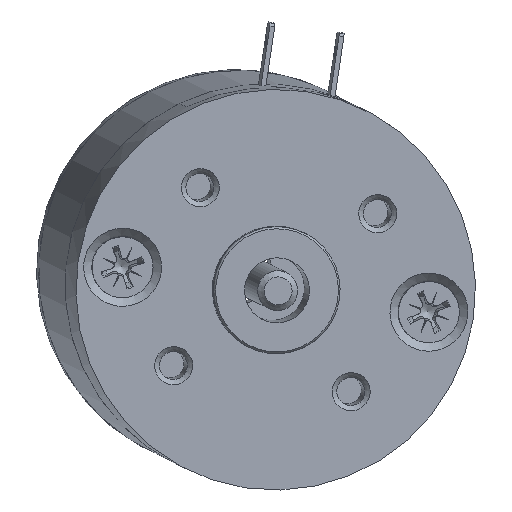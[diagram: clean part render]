
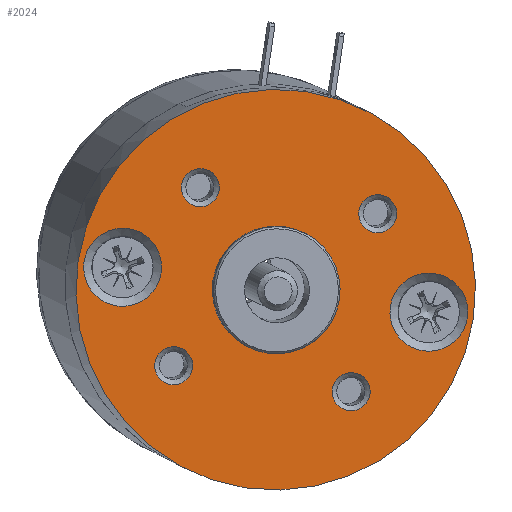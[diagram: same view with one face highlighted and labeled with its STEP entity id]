
A CAD part, top view. The second image highlights one B-rep face of the part: STEP entity #2024.
In plain terms, the highlighted planar face has unit normal (0.085, -0.045, 0.995) as drawn and (0, 0, 1) by its records, which use the part's own axes.
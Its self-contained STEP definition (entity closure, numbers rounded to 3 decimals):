
#147=FACE_BOUND('',#414,.T.);
#148=FACE_BOUND('',#415,.T.);
#149=FACE_BOUND('',#416,.T.);
#150=FACE_BOUND('',#417,.T.);
#151=FACE_BOUND('',#418,.T.);
#152=FACE_BOUND('',#419,.T.);
#153=FACE_BOUND('',#420,.T.);
#226=PLANE('',#2354);
#289=FACE_OUTER_BOUND('',#413,.T.);
#413=EDGE_LOOP('',(#1546));
#414=EDGE_LOOP('',(#1547,#1548));
#415=EDGE_LOOP('',(#1549,#1550));
#416=EDGE_LOOP('',(#1551));
#417=EDGE_LOOP('',(#1552));
#418=EDGE_LOOP('',(#1553));
#419=EDGE_LOOP('',(#1554));
#420=EDGE_LOOP('',(#1555));
#803=CIRCLE('',#2339,3.9);
#804=CIRCLE('',#2340,3.9);
#808=CIRCLE('',#2346,3.9);
#809=CIRCLE('',#2347,3.9);
#813=CIRCLE('',#2353,1.9);
#814=CIRCLE('',#2355,20.);
#815=CIRCLE('',#2356,1.9);
#816=CIRCLE('',#2357,1.9);
#817=CIRCLE('',#2358,6.35);
#818=CIRCLE('',#2359,1.9);
#952=VERTEX_POINT('',#3342);
#953=VERTEX_POINT('',#3344);
#957=VERTEX_POINT('',#3356);
#958=VERTEX_POINT('',#3358);
#962=VERTEX_POINT('',#3370);
#963=VERTEX_POINT('',#3374);
#964=VERTEX_POINT('',#3376);
#965=VERTEX_POINT('',#3378);
#966=VERTEX_POINT('',#3380);
#967=VERTEX_POINT('',#3382);
#1166=EDGE_CURVE('',#953,#952,#803,.T.);
#1167=EDGE_CURVE('',#952,#953,#804,.T.);
#1173=EDGE_CURVE('',#958,#957,#808,.T.);
#1174=EDGE_CURVE('',#957,#958,#809,.T.);
#1180=EDGE_CURVE('',#962,#962,#813,.T.);
#1181=EDGE_CURVE('',#963,#963,#814,.T.);
#1182=EDGE_CURVE('',#964,#964,#815,.T.);
#1183=EDGE_CURVE('',#965,#965,#816,.T.);
#1184=EDGE_CURVE('',#966,#966,#817,.T.);
#1185=EDGE_CURVE('',#967,#967,#818,.T.);
#1546=ORIENTED_EDGE('',*,*,#1181,.F.);
#1547=ORIENTED_EDGE('',*,*,#1166,.T.);
#1548=ORIENTED_EDGE('',*,*,#1167,.T.);
#1549=ORIENTED_EDGE('',*,*,#1173,.T.);
#1550=ORIENTED_EDGE('',*,*,#1174,.T.);
#1551=ORIENTED_EDGE('',*,*,#1182,.F.);
#1552=ORIENTED_EDGE('',*,*,#1183,.F.);
#1553=ORIENTED_EDGE('',*,*,#1184,.T.);
#1554=ORIENTED_EDGE('',*,*,#1185,.F.);
#1555=ORIENTED_EDGE('',*,*,#1180,.F.);
#2024=ADVANCED_FACE('',(#289,#147,#148,#149,#150,#151,#152,#153),#226,.F.);
#2339=AXIS2_PLACEMENT_3D('',#3345,#2698,#2699);
#2340=AXIS2_PLACEMENT_3D('',#3346,#2700,#2701);
#2346=AXIS2_PLACEMENT_3D('',#3359,#2714,#2715);
#2347=AXIS2_PLACEMENT_3D('',#3360,#2716,#2717);
#2353=AXIS2_PLACEMENT_3D('',#3372,#2730,#2731);
#2354=AXIS2_PLACEMENT_3D('',#3373,#2732,#2733);
#2355=AXIS2_PLACEMENT_3D('',#3375,#2734,#2735);
#2356=AXIS2_PLACEMENT_3D('',#3377,#2736,#2737);
#2357=AXIS2_PLACEMENT_3D('',#3379,#2738,#2739);
#2358=AXIS2_PLACEMENT_3D('',#3381,#2740,#2741);
#2359=AXIS2_PLACEMENT_3D('',#3383,#2742,#2743);
#2698=DIRECTION('center_axis',(0.,0.,-1.));
#2699=DIRECTION('ref_axis',(-1.,0.,0.));
#2700=DIRECTION('center_axis',(0.,0.,-1.));
#2701=DIRECTION('ref_axis',(-1.,0.,0.));
#2714=DIRECTION('center_axis',(0.,0.,-1.));
#2715=DIRECTION('ref_axis',(1.,0.,0.));
#2716=DIRECTION('center_axis',(0.,0.,-1.));
#2717=DIRECTION('ref_axis',(1.,0.,0.));
#2730=DIRECTION('center_axis',(0.,0.,1.));
#2731=DIRECTION('ref_axis',(0.,-1.,0.));
#2732=DIRECTION('center_axis',(0.,0.,-1.));
#2733=DIRECTION('ref_axis',(-1.,0.,0.));
#2734=DIRECTION('center_axis',(0.,0.,-1.));
#2735=DIRECTION('ref_axis',(-1.,0.,0.));
#2736=DIRECTION('center_axis',(0.,0.,1.));
#2737=DIRECTION('ref_axis',(1.,0.,0.));
#2738=DIRECTION('center_axis',(0.,0.,1.));
#2739=DIRECTION('ref_axis',(-1.,0.,0.));
#2740=DIRECTION('center_axis',(0.,0.,-1.));
#2741=DIRECTION('ref_axis',(-1.,0.,0.));
#2742=DIRECTION('center_axis',(0.,0.,1.));
#2743=DIRECTION('ref_axis',(0.,1.,0.));
#3342=CARTESIAN_POINT('',(-11.6,0.,12.6));
#3344=CARTESIAN_POINT('',(-19.4,0.,12.6));
#3345=CARTESIAN_POINT('Origin',(-15.5,0.,12.6));
#3346=CARTESIAN_POINT('Origin',(-15.5,0.,12.6));
#3356=CARTESIAN_POINT('',(11.6,0.,12.6));
#3358=CARTESIAN_POINT('',(19.4,0.,12.6));
#3359=CARTESIAN_POINT('Origin',(15.5,0.,12.6));
#3360=CARTESIAN_POINT('Origin',(15.5,0.,12.6));
#3370=CARTESIAN_POINT('',(-8.98,10.88,12.6));
#3372=CARTESIAN_POINT('Origin',(-8.98,8.98,12.6));
#3373=CARTESIAN_POINT('Origin',(0.,0.,12.6));
#3374=CARTESIAN_POINT('',(20.,0.,12.6));
#3375=CARTESIAN_POINT('Origin',(0.,0.,12.6));
#3376=CARTESIAN_POINT('',(-10.88,-8.98,12.6));
#3377=CARTESIAN_POINT('Origin',(-8.98,-8.98,12.6));
#3378=CARTESIAN_POINT('',(10.88,8.98,12.6));
#3379=CARTESIAN_POINT('Origin',(8.98,8.98,12.6));
#3380=CARTESIAN_POINT('',(6.35,0.,12.6));
#3381=CARTESIAN_POINT('Origin',(0.,0.,12.6));
#3382=CARTESIAN_POINT('',(8.98,-10.88,12.6));
#3383=CARTESIAN_POINT('Origin',(8.98,-8.98,12.6));
